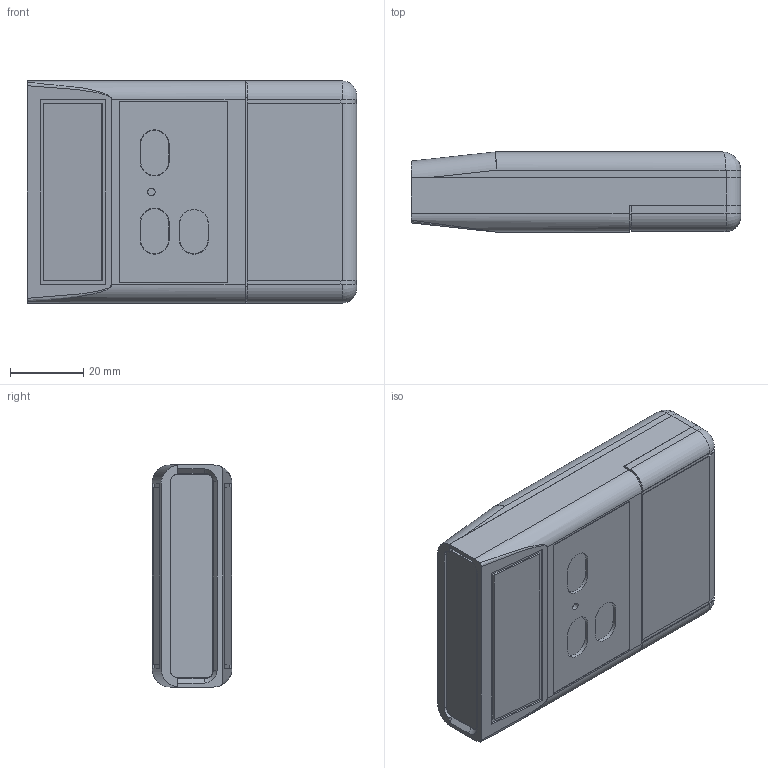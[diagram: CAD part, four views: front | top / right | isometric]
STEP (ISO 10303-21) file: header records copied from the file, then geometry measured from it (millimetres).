
FILE_DESCRIPTION (( 'STEP AP214' ), '1' );
FILE_NAME ('Conjunt PP64D.STEP', '2017-09-14T07:12:48', ( 'aaa' ), ( '' ), 'SwSTEP 2.0', 'SolidWorks 2013', '' );
FILE_SCHEMA (( 'AUTOMOTIVE_DESIGN' ));
Length unit declared in the file: millimetre
Products named in the file (14): Pulsador negre PP64D; Butó negre PP64D; Tapa Trasera PP64D; Cargol 2,1x6,5 PP64D; Cargol 2,2x13 PP64D; Tapa delantera PP64D; Tapa PP64D; Cuerpo PP64D; Conjunt PP64D; Pulsador blau PP64D; Butó blau PP64D; Tapeta Botones PP64D; Pulsador vermell PP64D; Butó vermell PP64D
Assembly tree (16 placements, depth 2):
  Conjunt PP64D
    Cuerpo PP64D
    Tapa PP64D
    Tapa delantera PP64D
    Cargol 2,2x13 PP64D  x2
    Cargol 2,1x6,5 PP64D  x3
    Tapa Trasera PP64D
    Butó negre PP64D
    Pulsador negre PP64D
    Butó vermell PP64D
    Pulsador vermell PP64D
    Tapeta Botones PP64D
    Butó blau PP64D
    Pulsador blau PP64D
Bounding box: 90 x 21.8 x 60.7 mm (x, y, z)
Volume: 37908.2 mm3; surface area: 42067 mm2
Topology: 16 solids, 16 shells, 909 faces, 2151 edges, 1309 vertices
Faces by surface type: plane 431, cone 316, cylinder 146, bspline 8, torus 8
Entity records: 20702 total; most frequent: CARTESIAN_POINT 3876, DIRECTION 3405, ORIENTED_EDGE 3322, EDGE_CURVE 1661, LINE 1203, VECTOR 1203, AXIS2_PLACEMENT_3D 1101, VERTEX_POINT 1050
